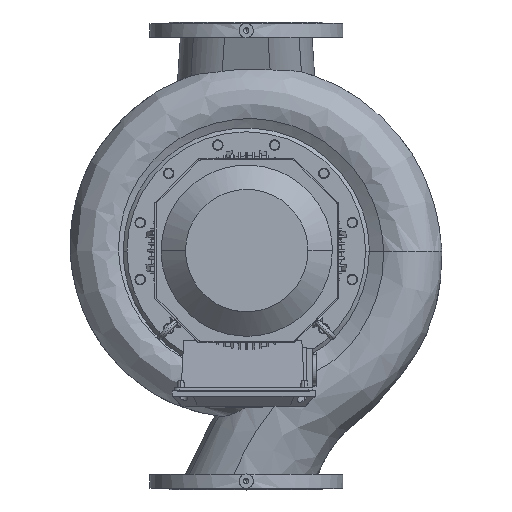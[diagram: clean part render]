
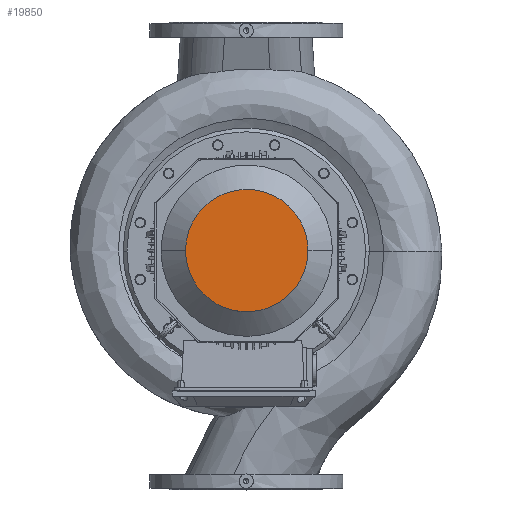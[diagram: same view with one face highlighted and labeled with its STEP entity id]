
A CAD part, top view. The second image highlights one B-rep face of the part: STEP entity #19850.
In plain terms, the highlighted free-form (B-spline) face has degree [1, 1] with [2, 2] control points.
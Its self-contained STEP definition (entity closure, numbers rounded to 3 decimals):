
#19850=ADVANCED_FACE('     F36',(#38496),#38497,.T.);
#19932=EDGE_CURVE('     E99',#38622,#38623,#38624,.T.);
#19936=EDGE_CURVE('     E99',#38623,#38622,#38628,.T.);
#38496=FACE_OUTER_BOUND('',#93511,.T.);
#38497=B_SPLINE_SURFACE_WITH_KNOTS('',1,1,((#93512,#93513),(#93514,#93515)),.UNSPECIFIED.,.F.,.F.,.F.,(2,2),(2,2),(0.044,0.955),(0.039,0.96),.UNSPECIFIED.);
#38622=VERTEX_POINT('',#93956);
#38623=VERTEX_POINT('',#93957);
#38624=(B_SPLINE_CURVE(2,(#93959,#93960,#93961,#93962,#93963),.UNSPECIFIED.,.F.,.F.)B_SPLINE_CURVE_WITH_KNOTS((3,2,3),(64.683,86.244,129.365),.UNSPECIFIED.)RATIONAL_B_SPLINE_CURVE((0.75,0.75,1.0,0.5,1.0))BOUNDED_CURVE()REPRESENTATION_ITEM('')GEOMETRIC_REPRESENTATION_ITEM()CURVE());
#38628=(B_SPLINE_CURVE(2,(#93977,#93978,#93979,#93980,#93981),.UNSPECIFIED.,.F.,.F.)B_SPLINE_CURVE_WITH_KNOTS((3,2,3),(0.0,43.122,64.683),.UNSPECIFIED.)RATIONAL_B_SPLINE_CURVE((1.0,0.5,1.0,0.75,0.75))BOUNDED_CURVE()REPRESENTATION_ITEM('')GEOMETRIC_REPRESENTATION_ITEM()CURVE());
#93511=EDGE_LOOP('',(#111357,#111358));
#93512=CARTESIAN_POINT('',(-269.045,153.272,-215.6));
#93513=CARTESIAN_POINT('',(-269.045,-103.789,-215.6));
#93514=CARTESIAN_POINT('',(-12.172,153.272,-215.6));
#93515=CARTESIAN_POINT('',(-12.172,-103.789,-215.6));
#93956=CARTESIAN_POINT('',(-268.613,24.546,-215.6));
#93957=CARTESIAN_POINT('',(-12.181,24.546,-215.6));
#93959=CARTESIAN_POINT('',(-268.613,24.546,-215.6));
#93960=CARTESIAN_POINT('',(-268.613,-49.479,-215.6));
#93961=CARTESIAN_POINT('',(-204.505,-86.492,-215.6));
#93962=CARTESIAN_POINT('',(-12.181,-197.531,-215.6));
#93963=CARTESIAN_POINT('',(-12.181,24.546,-215.6));
#93977=CARTESIAN_POINT('',(-12.181,24.546,-215.6));
#93978=CARTESIAN_POINT('',(-12.181,246.623,-215.6));
#93979=CARTESIAN_POINT('',(-204.505,135.585,-215.6));
#93980=CARTESIAN_POINT('',(-268.613,98.572,-215.6));
#93981=CARTESIAN_POINT('',(-268.613,24.546,-215.6));
#111357=ORIENTED_EDGE('',*,*,#19936,.F.);
#111358=ORIENTED_EDGE('',*,*,#19932,.F.);
